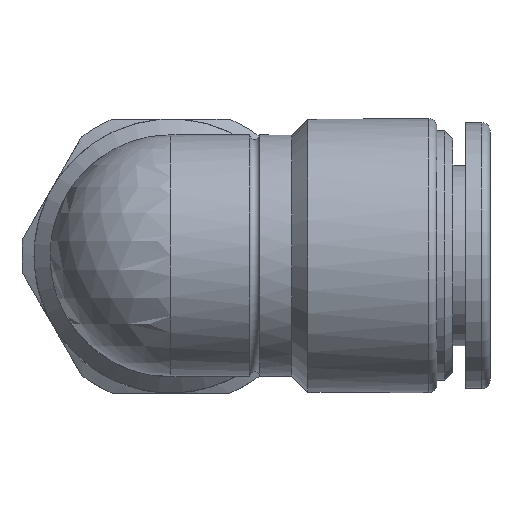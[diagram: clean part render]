
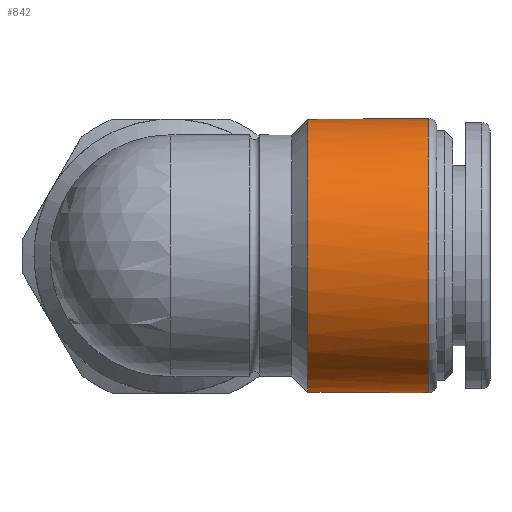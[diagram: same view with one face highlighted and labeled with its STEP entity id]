
A CAD part, top view. The second image highlights one B-rep face of the part: STEP entity #842.
In plain terms, the highlighted cylindrical face has radius 8.5 mm (diameter 17 mm), a full revolution.
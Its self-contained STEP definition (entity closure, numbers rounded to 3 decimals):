
#63=LINE($,#1365,#91);
#64=LINE($,#1367,#92);
#91=VECTOR($,#1108,2.);
#92=VECTOR($,#1109,2.);
#164=FACE_BOUND($,#260,.T.);
#185=FACE_OUTER_BOUND($,#259,.T.);
#259=EDGE_LOOP($,(#609));
#260=EDGE_LOOP($,(#610,#611,#612,#613,#614));
#314=CIRCLE($,#903,8.5);
#315=CIRCLE($,#905,8.5);
#327=CIRCLE($,#929,8.5);
#328=CIRCLE($,#931,8.5);
#374=VERTEX_POINT($,#1315);
#375=VERTEX_POINT($,#1316);
#377=VERTEX_POINT($,#1322);
#390=VERTEX_POINT($,#1361);
#391=VERTEX_POINT($,#1364);
#392=VERTEX_POINT($,#1366);
#456=EDGE_CURVE($,#374,#375,#314,.T.);
#459=EDGE_CURVE($,#377,#374,#315,.T.);
#473=EDGE_CURVE($,#390,#390,#327,.T.);
#474=EDGE_CURVE($,#391,#377,#63,.T.);
#475=EDGE_CURVE($,#375,#392,#64,.T.);
#476=EDGE_CURVE($,#391,#392,#328,.T.);
#609=ORIENTED_EDGE($,*,*,#473,.F.);
#610=ORIENTED_EDGE($,*,*,#474,.T.);
#611=ORIENTED_EDGE($,*,*,#459,.T.);
#612=ORIENTED_EDGE($,*,*,#456,.T.);
#613=ORIENTED_EDGE($,*,*,#475,.T.);
#614=ORIENTED_EDGE($,*,*,#476,.F.);
#809=CYLINDRICAL_SURFACE($,#930,8.5);
#842=ADVANCED_FACE($,(#185,#164),#809,.T.);
#903=AXIS2_PLACEMENT_3D($,#1317,#1048,#1049);
#905=AXIS2_PLACEMENT_3D($,#1323,#1054,#1055);
#929=AXIS2_PLACEMENT_3D($,#1362,#1104,#1105);
#930=AXIS2_PLACEMENT_3D($,#1363,#1106,#1107);
#931=AXIS2_PLACEMENT_3D($,#1368,#1110,#1111);
#1048=DIRECTION('center_axis',(1.,0.,0.));
#1049=DIRECTION('ref_axis',(0.,0.,1.));
#1054=DIRECTION('center_axis',(1.,0.,0.));
#1055=DIRECTION('ref_axis',(0.,0.,1.));
#1104=DIRECTION('center_axis',(1.,0.,0.));
#1105=DIRECTION('ref_axis',(0.,0.,1.));
#1106=DIRECTION('center_axis',(1.,0.,0.));
#1107=DIRECTION('ref_axis',(0.,0.,1.));
#1108=DIRECTION($,(1.,0.,0.));
#1109=DIRECTION($,(-1.,0.,0.));
#1110=DIRECTION('center_axis',(-1.,0.,0.));
#1111=DIRECTION('ref_axis',(0.,0.,1.));
#1315=CARTESIAN_POINT('',(10.5,0.,-8.5));
#1316=CARTESIAN_POINT('',(10.5,0.75,-8.467));
#1317=CARTESIAN_POINT('Origin',(10.5,0.,0.));
#1322=CARTESIAN_POINT('',(10.5,-0.75,-8.467));
#1323=CARTESIAN_POINT('Origin',(10.5,0.,0.));
#1361=CARTESIAN_POINT('',(16.,0.,-8.5));
#1362=CARTESIAN_POINT('Origin',(16.,0.,0.));
#1363=CARTESIAN_POINT('Origin',(7.5,0.,0.));
#1364=CARTESIAN_POINT('',(8.5,-0.75,-8.467));
#1365=CARTESIAN_POINT($,(7.5,-0.75,-8.467));
#1366=CARTESIAN_POINT('',(8.5,0.75,-8.467));
#1367=CARTESIAN_POINT($,(7.5,0.75,-8.467));
#1368=CARTESIAN_POINT('Origin',(8.5,0.,0.));
